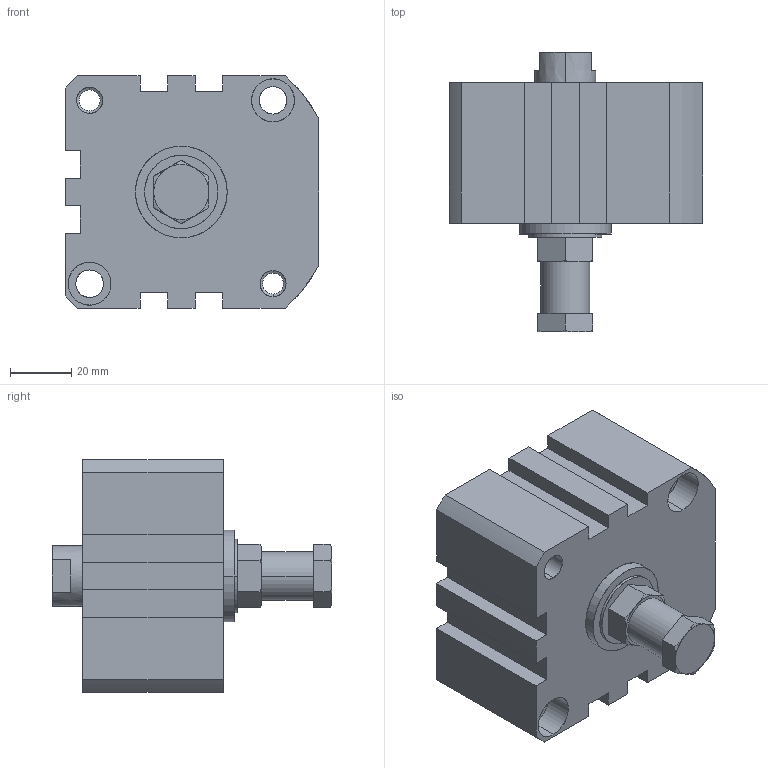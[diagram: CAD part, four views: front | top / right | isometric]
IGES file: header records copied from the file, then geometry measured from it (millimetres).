
Start section: SolidWorks IGES file using analytic representation for surfaces
Global section: file name: C:\Users\Toshiba\Desktop\XCA2-63-10.IGS; native system: SolidWorks 2014; preprocessor: SolidWorks 2014; author: Toshiba; date: 160524.103144; units: millimetre
Bounding box: 83 x 91.5 x 76 mm (x, y, z)
Surface area: 40450.2 mm2 (no closed solid volume)
Topology: 0 solids, 0 shells, 148 faces, 2571 edges, 2565 vertices
Faces by surface type: bspline 76, revolution 72
